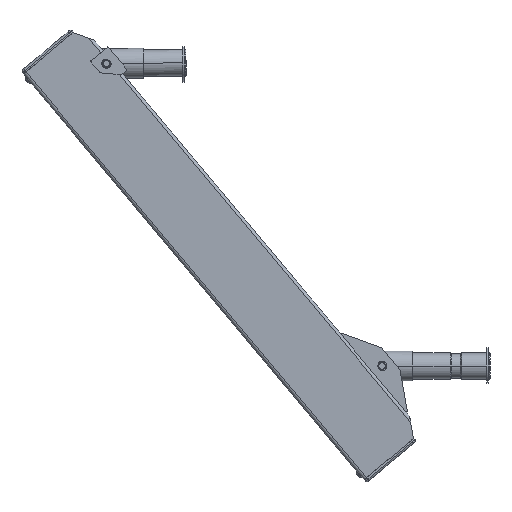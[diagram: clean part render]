
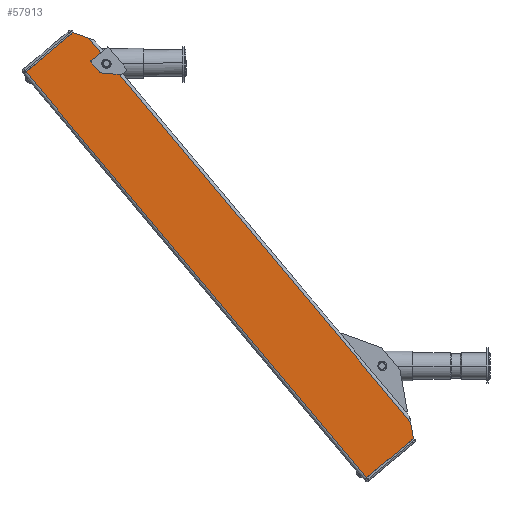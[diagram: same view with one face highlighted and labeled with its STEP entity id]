
A CAD part, left-side view. The second image highlights one B-rep face of the part: STEP entity #57913.
In plain terms, the highlighted planar face has unit normal (-1, 0, 0).
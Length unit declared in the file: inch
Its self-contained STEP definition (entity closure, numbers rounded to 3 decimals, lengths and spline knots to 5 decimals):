
#778 = CARTESIAN_POINT ( 'NONE',  ( 0., 0.12085, 7.375 ) ) ;
#860 = ORIENTED_EDGE ( 'NONE', *, *, #9356, .F. ) ;
#933 = VERTEX_POINT ( 'NONE', #36710 ) ;
#2471 = CARTESIAN_POINT ( 'NONE',  ( 0., 0.185, 7.25 ) ) ;
#4806 = VECTOR ( 'NONE', #55443, 39.37008 ) ;
#4807 = ORIENTED_EDGE ( 'NONE', *, *, #29034, .F. ) ;
#5425 = EDGE_CURVE ( 'NONE', #26052, #27138, #9589, .T. ) ;
#5808 = CARTESIAN_POINT ( 'NONE',  ( 0., 0.1, -8.27369 ) ) ;
#5931 = EDGE_CURVE ( 'NONE', #29061, #36409, #50096, .T. ) ;
#7637 = CARTESIAN_POINT ( 'NONE',  ( 0., 0.185, 7.1095 ) ) ;
#7834 = VECTOR ( 'NONE', #11031, 39.37008 ) ;
#8519 = LINE ( 'NONE', #18464, #4806 ) ;
#9356 = EDGE_CURVE ( 'NONE', #10041, #34451, #41200, .T. ) ;
#9589 = LINE ( 'NONE', #47202, #36197 ) ;
#10041 = VERTEX_POINT ( 'NONE', #41128 ) ;
#10109 = CARTESIAN_POINT ( 'NONE',  ( 0., 2.4, 8.75 ) ) ;
#10785 = CARTESIAN_POINT ( 'NONE',  ( 0., 2.4, -8.75 ) ) ;
#11031 = DIRECTION ( 'NONE',  ( 0., -1., 0. ) ) ;
#11440 = VERTEX_POINT ( 'NONE', #7637 ) ;
#11786 = ORIENTED_EDGE ( 'NONE', *, *, #5931, .T. ) ;
#12122 = DIRECTION ( 'NONE',  ( 0., 0.5, -0.866 ) ) ;
#12144 = CARTESIAN_POINT ( 'NONE',  ( 0., 0.185, 7.25 ) ) ;
#13080 = VERTEX_POINT ( 'NONE', #5808 ) ;
#13826 = CARTESIAN_POINT ( 'NONE',  ( 0., -0.06488, 7.375 ) ) ;
#14469 = LINE ( 'NONE', #10109, #7834 ) ;
#14837 = EDGE_CURVE ( 'NONE', #11440, #29061, #43367, .T. ) ;
#14921 = ORIENTED_EDGE ( 'NONE', *, *, #45922, .F. ) ;
#15545 = AXIS2_PLACEMENT_3D ( 'NONE', #2471, #26711, #16762 ) ;
#16170 = CARTESIAN_POINT ( 'NONE',  ( 0., 0.375, -8.75 ) ) ;
#16371 = VECTOR ( 'NONE', #35932, 39.37008 ) ;
#16383 = LINE ( 'NONE', #30725, #40010 ) ;
#16472 = ORIENTED_EDGE ( 'NONE', *, *, #52004, .T. ) ;
#16691 = DIRECTION ( 'NONE',  ( 0., 1., 0. ) ) ;
#16762 = DIRECTION ( 'NONE',  ( 0., 0., -1. ) ) ;
#18464 = CARTESIAN_POINT ( 'NONE',  ( 0., 0.1, -8.75 ) ) ;
#19523 = DIRECTION ( 'NONE',  ( 0., -1., 0. ) ) ;
#20562 = PLANE ( 'NONE',  #26784 ) ;
#20642 = CARTESIAN_POINT ( 'NONE',  ( 0., 0.12085, 7.125 ) ) ;
#20859 = LINE ( 'NONE', #16170, #27563 ) ;
#21343 = AXIS2_PLACEMENT_3D ( 'NONE', #44076, #54020, #40349 ) ;
#26052 = VERTEX_POINT ( 'NONE', #31359 ) ;
#26165 = CARTESIAN_POINT ( 'NONE',  ( 0., 0.1, 8.27369 ) ) ;
#26703 = VECTOR ( 'NONE', #52692, 39.37008 ) ;
#26711 = DIRECTION ( 'NONE',  ( 1., 0., 0. ) ) ;
#26784 = AXIS2_PLACEMENT_3D ( 'NONE', #38594, #29263, #48197 ) ;
#27138 = VERTEX_POINT ( 'NONE', #26165 ) ;
#27300 = VERTEX_POINT ( 'NONE', #44808 ) ;
#27563 = VECTOR ( 'NONE', #12122, 39.37008 ) ;
#28312 = CARTESIAN_POINT ( 'NONE',  ( 0., 2.4, 8.75 ) ) ;
#29034 = EDGE_CURVE ( 'NONE', #13080, #933, #20859, .T. ) ;
#29061 = VERTEX_POINT ( 'NONE', #54088 ) ;
#29088 = LINE ( 'NONE', #38725, #26703 ) ;
#29263 = DIRECTION ( 'NONE',  ( -1., 0., 0. ) ) ;
#29779 = CARTESIAN_POINT ( 'NONE',  ( 0., 0.1, 7.125 ) ) ;
#30661 = AXIS2_PLACEMENT_3D ( 'NONE', #12144, #31424, #36380 ) ;
#30725 = CARTESIAN_POINT ( 'NONE',  ( 0., 0.12085, 7.125 ) ) ;
#31359 = CARTESIAN_POINT ( 'NONE',  ( 0., 0.1, 7.375 ) ) ;
#31424 = DIRECTION ( 'NONE',  ( 1., 0., 0. ) ) ;
#32804 = DIRECTION ( 'NONE',  ( 0., -1., 0. ) ) ;
#33315 = VECTOR ( 'NONE', #32804, 39.37008 ) ;
#33848 = DIRECTION ( 'NONE',  ( 0., 0., 1. ) ) ;
#34451 = VERTEX_POINT ( 'NONE', #28312 ) ;
#34807 = ORIENTED_EDGE ( 'NONE', *, *, #5425, .T. ) ;
#34834 = ORIENTED_EDGE ( 'NONE', *, *, #46697, .T. ) ;
#35260 = ORIENTED_EDGE ( 'NONE', *, *, #36110, .T. ) ;
#35932 = DIRECTION ( 'NONE',  ( 0., 0., 1. ) ) ;
#36110 = EDGE_CURVE ( 'NONE', #36115, #52354, #16383, .T. ) ;
#36115 = VERTEX_POINT ( 'NONE', #29779 ) ;
#36197 = VECTOR ( 'NONE', #33848, 39.37008 ) ;
#36380 = DIRECTION ( 'NONE',  ( 0., 0., -1. ) ) ;
#36409 = VERTEX_POINT ( 'NONE', #778 ) ;
#36710 = CARTESIAN_POINT ( 'NONE',  ( 0., 0.375, -8.75 ) ) ;
#37521 = ORIENTED_EDGE ( 'NONE', *, *, #58189, .T. ) ;
#38594 = CARTESIAN_POINT ( 'NONE',  ( 0., 2.4, -8.75 ) ) ;
#38725 = CARTESIAN_POINT ( 'NONE',  ( 0., 0.375, 8.75 ) ) ;
#40010 = VECTOR ( 'NONE', #16691, 39.37008 ) ;
#40349 = DIRECTION ( 'NONE',  ( 0., 0., -1. ) ) ;
#41128 = CARTESIAN_POINT ( 'NONE',  ( 0., 2.4, -8.75 ) ) ;
#41200 = LINE ( 'NONE', #51104, #16371 ) ;
#42443 = ORIENTED_EDGE ( 'NONE', *, *, #14837, .T. ) ;
#43367 = CIRCLE ( 'NONE', #15545, 0.1405 ) ;
#44056 = LINE ( 'NONE', #10785, #54409 ) ;
#44076 = CARTESIAN_POINT ( 'NONE',  ( 0., 0.185, 7.25 ) ) ;
#44167 = FACE_OUTER_BOUND ( 'NONE', #49087, .T. ) ;
#44808 = CARTESIAN_POINT ( 'NONE',  ( 0., 0.375, 8.75 ) ) ;
#45016 = EDGE_CURVE ( 'NONE', #10041, #933, #44056, .T. ) ;
#45819 = ORIENTED_EDGE ( 'NONE', *, *, #45016, .T. ) ;
#45922 = EDGE_CURVE ( 'NONE', #34451, #27300, #14469, .T. ) ;
#45989 = EDGE_CURVE ( 'NONE', #27300, #27138, #29088, .T. ) ;
#46697 = EDGE_CURVE ( 'NONE', #13080, #36115, #8519, .T. ) ;
#47202 = CARTESIAN_POINT ( 'NONE',  ( 0., 0.1, -8.75 ) ) ;
#48197 = DIRECTION ( 'NONE',  ( 0., -1., 0. ) ) ;
#49087 = EDGE_LOOP ( 'NONE', ( #35260, #37521, #42443, #11786, #16472, #34807, #51786, #14921, #860, #45819, #4807, #34834 ) ) ;
#49479 = CIRCLE ( 'NONE', #30661, 0.1405 ) ;
#50096 = CIRCLE ( 'NONE', #21343, 0.1405 ) ;
#51104 = CARTESIAN_POINT ( 'NONE',  ( 0., 2.4, -8.75 ) ) ;
#51786 = ORIENTED_EDGE ( 'NONE', *, *, #45989, .F. ) ;
#52004 = EDGE_CURVE ( 'NONE', #36409, #26052, #56384, .T. ) ;
#52354 = VERTEX_POINT ( 'NONE', #20642 ) ;
#52692 = DIRECTION ( 'NONE',  ( 0., -0.5, -0.866 ) ) ;
#54020 = DIRECTION ( 'NONE',  ( 1., 0., 0. ) ) ;
#54088 = CARTESIAN_POINT ( 'NONE',  ( 0., 0.185, 7.3905 ) ) ;
#54409 = VECTOR ( 'NONE', #19523, 39.37008 ) ;
#55443 = DIRECTION ( 'NONE',  ( 0., 0., 1. ) ) ;
#56384 = LINE ( 'NONE', #13826, #33315 ) ;
#57913 = ADVANCED_FACE ( 'NONE', ( #44167 ), #20562, .T. ) ;
#58189 = EDGE_CURVE ( 'NONE', #52354, #11440, #49479, .T. ) ;
